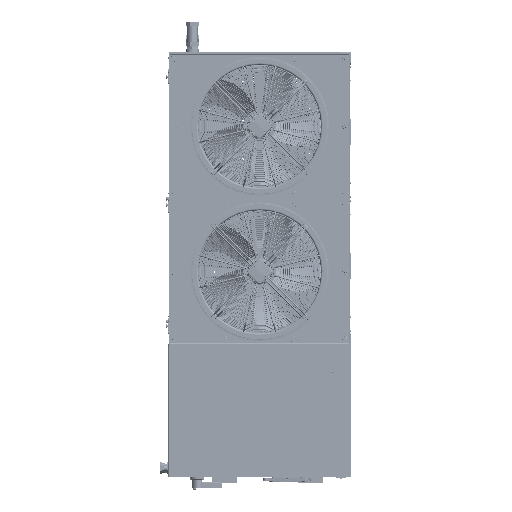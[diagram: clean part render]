
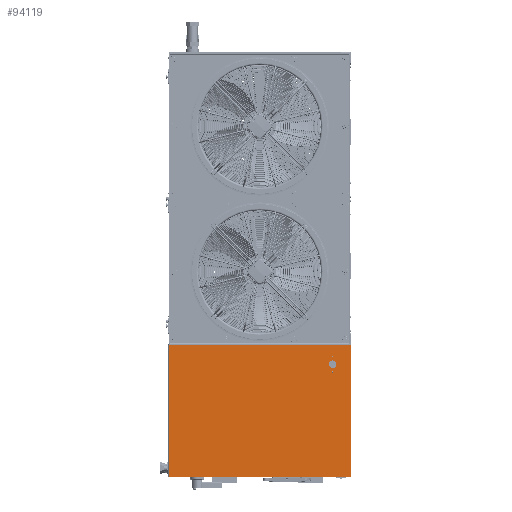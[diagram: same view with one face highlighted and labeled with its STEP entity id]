
A CAD part, top view. The second image highlights one B-rep face of the part: STEP entity #94119.
In plain terms, the highlighted planar face has unit normal (0, 0, 1).
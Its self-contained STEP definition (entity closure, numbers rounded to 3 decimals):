
#201 = VERTEX_POINT ( 'NONE', #30181 ) ;
#9148 = VERTEX_POINT ( 'NONE', #205517 ) ;
#11086 = VECTOR ( 'NONE', #166361, 1000. ) ;
#11963 = EDGE_CURVE ( 'NONE', #244328, #606407, #442484, .T. ) ;
#16972 = AXIS2_PLACEMENT_3D ( 'NONE', #621945, #458658, #288365 ) ;
#30181 = CARTESIAN_POINT ( 'NONE',  ( 457.5, -473.75, 0. ) ) ;
#43854 = CARTESIAN_POINT ( 'NONE',  ( 396., -380.5, 0. ) ) ;
#55526 = CARTESIAN_POINT ( 'NONE',  ( 399.25, -380.5, 0. ) ) ;
#56718 = AXIS2_PLACEMENT_3D ( 'NONE', #160530, #263547, #377144 ) ;
#66303 = EDGE_CURVE ( 'NONE', #316924, #144477, #664883, .T. ) ;
#69788 = DIRECTION ( 'NONE',  ( 0., 0., 1. ) ) ;
#71325 = DIRECTION ( 'NONE',  ( -1., 0., 0. ) ) ;
#94119 = ADVANCED_FACE ( 'NONE', ( #411095, #371814, #701971, #378844 ), #545705, .F. ) ;
#100539 = CARTESIAN_POINT ( 'NONE',  ( -228.5, -473.75, 0. ) ) ;
#105538 = CARTESIAN_POINT ( 'NONE',  ( 312.75, -380.5, 0. ) ) ;
#108437 = CIRCLE ( 'NONE', #664465, 20. ) ;
#108962 = DIRECTION ( 'NONE',  ( 0., 0., -1. ) ) ;
#111371 = EDGE_LOOP ( 'NONE', ( #670067, #558738, #575739, #238188 ) ) ;
#138075 = EDGE_LOOP ( 'NONE', ( #489241, #419208 ) ) ;
#140438 = ORIENTED_EDGE ( 'NONE', *, *, #685389, .F. ) ;
#144477 = VERTEX_POINT ( 'NONE', #165244 ) ;
#155228 = DIRECTION ( 'NONE',  ( 0., -1., 0. ) ) ;
#160530 = CARTESIAN_POINT ( 'NONE',  ( 396., -380.5, 0. ) ) ;
#165244 = CARTESIAN_POINT ( 'NONE',  ( -228.5, 473.75, 0. ) ) ;
#166361 = DIRECTION ( 'NONE',  ( 0., -1., 0. ) ) ;
#169616 = EDGE_CURVE ( 'NONE', #502581, #9148, #108437, .T. ) ;
#181539 = VERTEX_POINT ( 'NONE', #197500 ) ;
#197500 = CARTESIAN_POINT ( 'NONE',  ( -228.5, -473.75, 0. ) ) ;
#205517 = CARTESIAN_POINT ( 'NONE',  ( 336., -380.5, 0. ) ) ;
#207210 = DIRECTION ( 'NONE',  ( 0., 0., 1. ) ) ;
#220676 = CIRCLE ( 'NONE', #663226, 3.25 ) ;
#229589 = DIRECTION ( 'NONE',  ( 1., 0., 0. ) ) ;
#232623 = EDGE_CURVE ( 'NONE', #181539, #144477, #643847, .T. ) ;
#238188 = ORIENTED_EDGE ( 'NONE', *, *, #526013, .F. ) ;
#244328 = VERTEX_POINT ( 'NONE', #55526 ) ;
#254076 = CARTESIAN_POINT ( 'NONE',  ( 319.25, -380.5, 0. ) ) ;
#261052 = EDGE_LOOP ( 'NONE', ( #140438, #289036 ) ) ;
#263547 = DIRECTION ( 'NONE',  ( 0., 0., 1. ) ) ;
#266875 = CARTESIAN_POINT ( 'NONE',  ( 457.5, 473.75, 0. ) ) ;
#268374 = AXIS2_PLACEMENT_3D ( 'NONE', #391156, #341354, #654084 ) ;
#275530 = EDGE_CURVE ( 'NONE', #9148, #502581, #415866, .T. ) ;
#283944 = VERTEX_POINT ( 'NONE', #254076 ) ;
#286430 = CARTESIAN_POINT ( 'NONE',  ( 316., -380.5, 0. ) ) ;
#287974 = CARTESIAN_POINT ( 'NONE',  ( 457.5, -473.75, 0. ) ) ;
#288365 = DIRECTION ( 'NONE',  ( 1., 0., 0. ) ) ;
#289036 = ORIENTED_EDGE ( 'NONE', *, *, #566141, .F. ) ;
#291960 = EDGE_CURVE ( 'NONE', #606407, #244328, #498879, .T. ) ;
#292391 = EDGE_CURVE ( 'NONE', #316924, #201, #669393, .T. ) ;
#316924 = VERTEX_POINT ( 'NONE', #266875 ) ;
#325216 = CARTESIAN_POINT ( 'NONE',  ( 392.75, -380.5, 0. ) ) ;
#341354 = DIRECTION ( 'NONE',  ( 0., 0., 1. ) ) ;
#355153 = DIRECTION ( 'NONE',  ( 1., 0., 0. ) ) ;
#361274 = ORIENTED_EDGE ( 'NONE', *, *, #275530, .F. ) ;
#362163 = CARTESIAN_POINT ( 'NONE',  ( 356., -380.5, 0. ) ) ;
#365313 = VECTOR ( 'NONE', #519813, 1000. ) ;
#371814 = FACE_BOUND ( 'NONE', #456037, .T. ) ;
#377144 = DIRECTION ( 'NONE',  ( 1., 0., 0. ) ) ;
#378844 = FACE_BOUND ( 'NONE', #138075, .T. ) ;
#391156 = CARTESIAN_POINT ( 'NONE',  ( 356., -380.5, 0. ) ) ;
#402947 = ORIENTED_EDGE ( 'NONE', *, *, #169616, .F. ) ;
#411095 = FACE_OUTER_BOUND ( 'NONE', #111371, .T. ) ;
#415866 = CIRCLE ( 'NONE', #268374, 20. ) ;
#419208 = ORIENTED_EDGE ( 'NONE', *, *, #291960, .F. ) ;
#442085 = AXIS2_PLACEMENT_3D ( 'NONE', #43854, #207210, #616831 ) ;
#442484 = CIRCLE ( 'NONE', #56718, 3.25 ) ;
#456037 = EDGE_LOOP ( 'NONE', ( #402947, #361274 ) ) ;
#458658 = DIRECTION ( 'NONE',  ( 0., 0., 1. ) ) ;
#465232 = DIRECTION ( 'NONE',  ( 0., 0., 1. ) ) ;
#474891 = LINE ( 'NONE', #287974, #670026 ) ;
#489241 = ORIENTED_EDGE ( 'NONE', *, *, #11963, .F. ) ;
#493036 = CARTESIAN_POINT ( 'NONE',  ( 457.5, 475.75, 0. ) ) ;
#498879 = CIRCLE ( 'NONE', #442085, 3.25 ) ;
#502581 = VERTEX_POINT ( 'NONE', #528529 ) ;
#519813 = DIRECTION ( 'NONE',  ( 0., 1., 0. ) ) ;
#526013 = EDGE_CURVE ( 'NONE', #201, #181539, #474891, .T. ) ;
#526863 = VERTEX_POINT ( 'NONE', #105538 ) ;
#527595 = CIRCLE ( 'NONE', #16972, 3.25 ) ;
#528010 = VECTOR ( 'NONE', #578508, 1000. ) ;
#528529 = CARTESIAN_POINT ( 'NONE',  ( 376., -380.5, 0. ) ) ;
#545705 = PLANE ( 'NONE',  #566942 ) ;
#558738 = ORIENTED_EDGE ( 'NONE', *, *, #66303, .T. ) ;
#566141 = EDGE_CURVE ( 'NONE', #526863, #283944, #220676, .T. ) ;
#566942 = AXIS2_PLACEMENT_3D ( 'NONE', #595456, #108962, #155228 ) ;
#575739 = ORIENTED_EDGE ( 'NONE', *, *, #232623, .F. ) ;
#578508 = DIRECTION ( 'NONE',  ( -1., 0., 0. ) ) ;
#582033 = CARTESIAN_POINT ( 'NONE',  ( -228.5, 473.75, 0. ) ) ;
#595456 = CARTESIAN_POINT ( 'NONE',  ( 0., 0., 0. ) ) ;
#606407 = VERTEX_POINT ( 'NONE', #325216 ) ;
#616831 = DIRECTION ( 'NONE',  ( 1., 0., 0. ) ) ;
#621945 = CARTESIAN_POINT ( 'NONE',  ( 316., -380.5, 0. ) ) ;
#643847 = LINE ( 'NONE', #100539, #365313 ) ;
#654084 = DIRECTION ( 'NONE',  ( 1., 0., 0. ) ) ;
#663226 = AXIS2_PLACEMENT_3D ( 'NONE', #286430, #69788, #229589 ) ;
#664465 = AXIS2_PLACEMENT_3D ( 'NONE', #362163, #465232, #355153 ) ;
#664883 = LINE ( 'NONE', #582033, #528010 ) ;
#669393 = LINE ( 'NONE', #493036, #11086 ) ;
#670026 = VECTOR ( 'NONE', #71325, 1000. ) ;
#670067 = ORIENTED_EDGE ( 'NONE', *, *, #292391, .F. ) ;
#685389 = EDGE_CURVE ( 'NONE', #283944, #526863, #527595, .T. ) ;
#701971 = FACE_BOUND ( 'NONE', #261052, .T. ) ;
